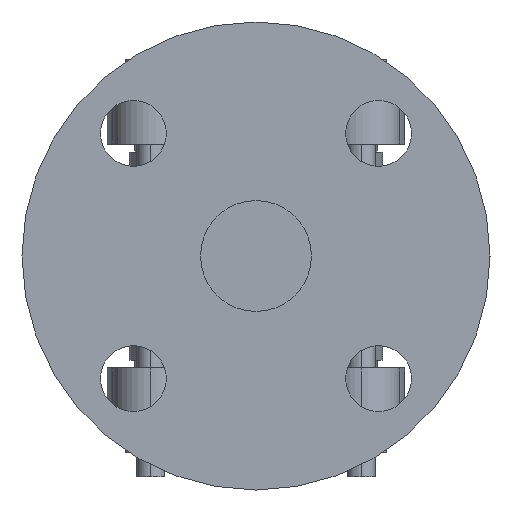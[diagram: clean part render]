
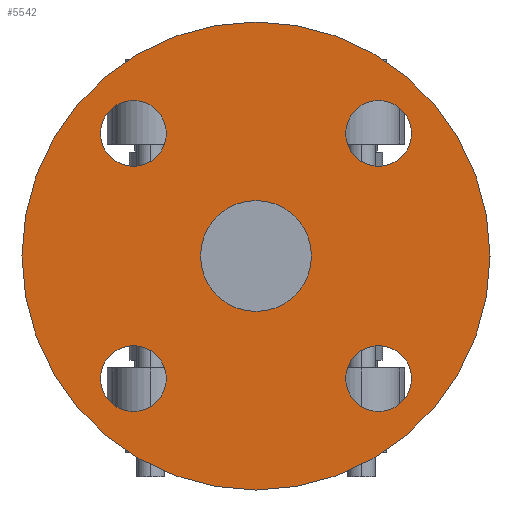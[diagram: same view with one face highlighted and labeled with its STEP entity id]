
A CAD part, left-side view. The second image highlights one B-rep face of the part: STEP entity #5542.
In plain terms, the highlighted planar face has unit normal (-1, 0, 0).
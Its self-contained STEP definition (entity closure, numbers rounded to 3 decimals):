
#14 = CARTESIAN_POINT ( 'NONE',  ( -80., 35.355, -35.355 ) ) ;
#24 = CIRCLE ( 'NONE', #1994, 9.5 ) ;
#118 = DIRECTION ( 'NONE',  ( -1., 0., 0. ) ) ;
#172 = ORIENTED_EDGE ( 'NONE', *, *, #2507, .F. ) ;
#200 = DIRECTION ( 'NONE',  ( -1., 0., 0. ) ) ;
#208 = CARTESIAN_POINT ( 'NONE',  ( -80., 0., 0. ) ) ;
#285 = CARTESIAN_POINT ( 'NONE',  ( -80., 44.855, 35.355 ) ) ;
#295 = ORIENTED_EDGE ( 'NONE', *, *, #5821, .F. ) ;
#432 = AXIS2_PLACEMENT_3D ( 'NONE', #5842, #200, #2071 ) ;
#459 = ORIENTED_EDGE ( 'NONE', *, *, #4368, .F. ) ;
#461 = DIRECTION ( 'NONE',  ( 0., -1., 0. ) ) ;
#588 = EDGE_LOOP ( 'NONE', ( #172, #4947 ) ) ;
#652 = CIRCLE ( 'NONE', #5385, 9.5 ) ;
#679 = DIRECTION ( 'NONE',  ( 0., -1., 0. ) ) ;
#719 = DIRECTION ( 'NONE',  ( -1., 0., 0. ) ) ;
#727 = EDGE_CURVE ( 'NONE', #1919, #1181, #24, .T. ) ;
#768 = ORIENTED_EDGE ( 'NONE', *, *, #3046, .F. ) ;
#794 = DIRECTION ( 'NONE',  ( 0., -1., 0. ) ) ;
#798 = FACE_BOUND ( 'NONE', #3249, .T. ) ;
#837 = CARTESIAN_POINT ( 'NONE',  ( -80., 16., 0. ) ) ;
#909 = CARTESIAN_POINT ( 'NONE',  ( -80., 0., 0. ) ) ;
#939 = DIRECTION ( 'NONE',  ( 0., 0., -1. ) ) ;
#940 = AXIS2_PLACEMENT_3D ( 'NONE', #5920, #2213, #3957 ) ;
#1102 = DIRECTION ( 'NONE',  ( -1., 0., 0. ) ) ;
#1181 = VERTEX_POINT ( 'NONE', #2361 ) ;
#1374 = EDGE_CURVE ( 'NONE', #5895, #2551, #2003, .T. ) ;
#1529 = DIRECTION ( 'NONE',  ( 0., 0., 1. ) ) ;
#1583 = AXIS2_PLACEMENT_3D ( 'NONE', #4848, #3500, #794 ) ;
#1677 = FACE_BOUND ( 'NONE', #588, .T. ) ;
#1705 = FACE_BOUND ( 'NONE', #1820, .T. ) ;
#1709 = VERTEX_POINT ( 'NONE', #2798 ) ;
#1724 = AXIS2_PLACEMENT_3D ( 'NONE', #4304, #4826, #1529 ) ;
#1729 = ORIENTED_EDGE ( 'NONE', *, *, #5107, .F. ) ;
#1731 = CARTESIAN_POINT ( 'NONE',  ( -80., 67.5, 0. ) ) ;
#1788 = DIRECTION ( 'NONE',  ( -1., 0., 0. ) ) ;
#1818 = AXIS2_PLACEMENT_3D ( 'NONE', #3800, #118, #461 ) ;
#1820 = EDGE_LOOP ( 'NONE', ( #1729, #5913 ) ) ;
#1846 = DIRECTION ( 'NONE',  ( 0., -1., 0. ) ) ;
#1864 = CIRCLE ( 'NONE', #3131, 9.5 ) ;
#1912 = AXIS2_PLACEMENT_3D ( 'NONE', #2165, #4089, #3971 ) ;
#1919 = VERTEX_POINT ( 'NONE', #2952 ) ;
#1994 = AXIS2_PLACEMENT_3D ( 'NONE', #14, #2713, #4543 ) ;
#2003 = CIRCLE ( 'NONE', #432, 9.5 ) ;
#2064 = CARTESIAN_POINT ( 'NONE',  ( -80., -35.355, -35.355 ) ) ;
#2071 = DIRECTION ( 'NONE',  ( 0., 1., 0. ) ) ;
#2158 = EDGE_CURVE ( 'NONE', #3386, #3112, #652, .T. ) ;
#2165 = CARTESIAN_POINT ( 'NONE',  ( -80., 0., 0. ) ) ;
#2168 = CIRCLE ( 'NONE', #1583, 16. ) ;
#2181 = EDGE_CURVE ( 'NONE', #3246, #5907, #2190, .T. ) ;
#2190 = CIRCLE ( 'NONE', #940, 67.5 ) ;
#2203 = AXIS2_PLACEMENT_3D ( 'NONE', #909, #1788, #1846 ) ;
#2213 = DIRECTION ( 'NONE',  ( -1., 0., 0. ) ) ;
#2261 = CARTESIAN_POINT ( 'NONE',  ( -80., -44.855, -35.355 ) ) ;
#2312 = CARTESIAN_POINT ( 'NONE',  ( -80., -44.855, 35.355 ) ) ;
#2361 = CARTESIAN_POINT ( 'NONE',  ( -80., 44.855, -35.355 ) ) ;
#2389 = CIRCLE ( 'NONE', #2203, 16. ) ;
#2497 = CIRCLE ( 'NONE', #1724, 9.5 ) ;
#2507 = EDGE_CURVE ( 'NONE', #2551, #5895, #1864, .T. ) ;
#2551 = VERTEX_POINT ( 'NONE', #2312 ) ;
#2576 = ORIENTED_EDGE ( 'NONE', *, *, #2181, .T. ) ;
#2713 = DIRECTION ( 'NONE',  ( -1., 0., 0. ) ) ;
#2798 = CARTESIAN_POINT ( 'NONE',  ( -80., -16., 0. ) ) ;
#2884 = VERTEX_POINT ( 'NONE', #4876 ) ;
#2885 = CIRCLE ( 'NONE', #1818, 9.5 ) ;
#2928 = EDGE_CURVE ( 'NONE', #1709, #4259, #2168, .T. ) ;
#2952 = CARTESIAN_POINT ( 'NONE',  ( -80., 25.855, -35.355 ) ) ;
#3046 = EDGE_CURVE ( 'NONE', #4259, #1709, #2389, .T. ) ;
#3112 = VERTEX_POINT ( 'NONE', #5135 ) ;
#3131 = AXIS2_PLACEMENT_3D ( 'NONE', #5824, #4394, #5763 ) ;
#3200 = ORIENTED_EDGE ( 'NONE', *, *, #2928, .F. ) ;
#3246 = VERTEX_POINT ( 'NONE', #5352 ) ;
#3249 = EDGE_LOOP ( 'NONE', ( #3200, #768 ) ) ;
#3300 = DIRECTION ( 'NONE',  ( -1., 0., 0. ) ) ;
#3368 = CIRCLE ( 'NONE', #5478, 67.5 ) ;
#3386 = VERTEX_POINT ( 'NONE', #285 ) ;
#3500 = DIRECTION ( 'NONE',  ( -1., 0., 0. ) ) ;
#3527 = EDGE_LOOP ( 'NONE', ( #295, #5411 ) ) ;
#3665 = CARTESIAN_POINT ( 'NONE',  ( -80., -25.855, 35.355 ) ) ;
#3800 = CARTESIAN_POINT ( 'NONE',  ( -80., 35.355, -35.355 ) ) ;
#3957 = DIRECTION ( 'NONE',  ( 0., -1., 0. ) ) ;
#3971 = DIRECTION ( 'NONE',  ( 0., 1., 0. ) ) ;
#4085 = AXIS2_PLACEMENT_3D ( 'NONE', #2064, #4678, #5622 ) ;
#4089 = DIRECTION ( 'NONE',  ( 1., 0., 0. ) ) ;
#4157 = VERTEX_POINT ( 'NONE', #2261 ) ;
#4259 = VERTEX_POINT ( 'NONE', #837 ) ;
#4280 = CIRCLE ( 'NONE', #4085, 9.5 ) ;
#4304 = CARTESIAN_POINT ( 'NONE',  ( -80., -35.355, -35.355 ) ) ;
#4368 = EDGE_CURVE ( 'NONE', #1181, #1919, #2885, .T. ) ;
#4394 = DIRECTION ( 'NONE',  ( -1., 0., 0. ) ) ;
#4402 = CARTESIAN_POINT ( 'NONE',  ( -80., 35.355, 35.355 ) ) ;
#4450 = FACE_BOUND ( 'NONE', #5444, .T. ) ;
#4543 = DIRECTION ( 'NONE',  ( 0., -1., 0. ) ) ;
#4678 = DIRECTION ( 'NONE',  ( -1., 0., 0. ) ) ;
#4812 = AXIS2_PLACEMENT_3D ( 'NONE', #5044, #3300, #939 ) ;
#4826 = DIRECTION ( 'NONE',  ( -1., 0., 0. ) ) ;
#4848 = CARTESIAN_POINT ( 'NONE',  ( -80., 0., 0. ) ) ;
#4876 = CARTESIAN_POINT ( 'NONE',  ( -80., -25.855, -35.355 ) ) ;
#4908 = EDGE_LOOP ( 'NONE', ( #2576, #5324 ) ) ;
#4947 = ORIENTED_EDGE ( 'NONE', *, *, #1374, .F. ) ;
#4982 = DIRECTION ( 'NONE',  ( 0., 0., -1. ) ) ;
#5026 = FACE_OUTER_BOUND ( 'NONE', #4908, .T. ) ;
#5044 = CARTESIAN_POINT ( 'NONE',  ( -80., 35.355, 35.355 ) ) ;
#5099 = CIRCLE ( 'NONE', #4812, 9.5 ) ;
#5107 = EDGE_CURVE ( 'NONE', #4157, #2884, #4280, .T. ) ;
#5135 = CARTESIAN_POINT ( 'NONE',  ( -80., 25.855, 35.355 ) ) ;
#5262 = ORIENTED_EDGE ( 'NONE', *, *, #727, .F. ) ;
#5324 = ORIENTED_EDGE ( 'NONE', *, *, #5436, .T. ) ;
#5352 = CARTESIAN_POINT ( 'NONE',  ( -80., -67.5, 0. ) ) ;
#5383 = EDGE_CURVE ( 'NONE', #2884, #4157, #2497, .T. ) ;
#5385 = AXIS2_PLACEMENT_3D ( 'NONE', #4402, #719, #4982 ) ;
#5397 = PLANE ( 'NONE',  #1912 ) ;
#5411 = ORIENTED_EDGE ( 'NONE', *, *, #2158, .F. ) ;
#5436 = EDGE_CURVE ( 'NONE', #5907, #3246, #3368, .T. ) ;
#5444 = EDGE_LOOP ( 'NONE', ( #5262, #459 ) ) ;
#5478 = AXIS2_PLACEMENT_3D ( 'NONE', #208, #1102, #679 ) ;
#5542 = ADVANCED_FACE ( 'NONE', ( #5850, #1677, #1705, #4450, #798, #5026 ), #5397, .F. ) ;
#5622 = DIRECTION ( 'NONE',  ( 0., 0., 1. ) ) ;
#5763 = DIRECTION ( 'NONE',  ( 0., 1., 0. ) ) ;
#5821 = EDGE_CURVE ( 'NONE', #3112, #3386, #5099, .T. ) ;
#5824 = CARTESIAN_POINT ( 'NONE',  ( -80., -35.355, 35.355 ) ) ;
#5842 = CARTESIAN_POINT ( 'NONE',  ( -80., -35.355, 35.355 ) ) ;
#5850 = FACE_BOUND ( 'NONE', #3527, .T. ) ;
#5895 = VERTEX_POINT ( 'NONE', #3665 ) ;
#5907 = VERTEX_POINT ( 'NONE', #1731 ) ;
#5913 = ORIENTED_EDGE ( 'NONE', *, *, #5383, .F. ) ;
#5920 = CARTESIAN_POINT ( 'NONE',  ( -80., 0., 0. ) ) ;
